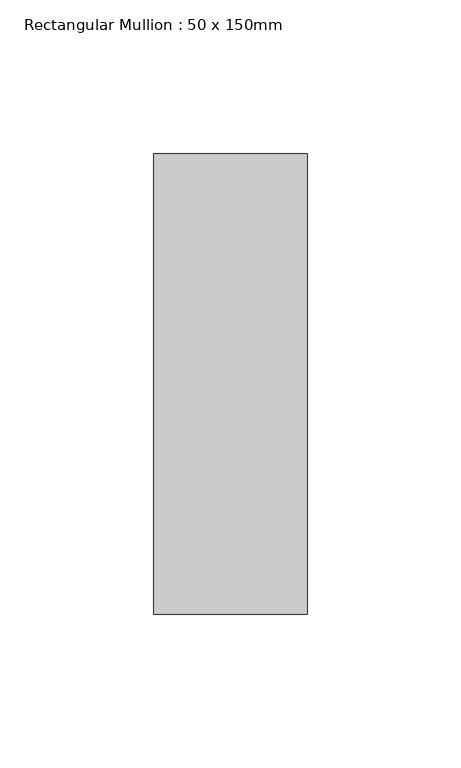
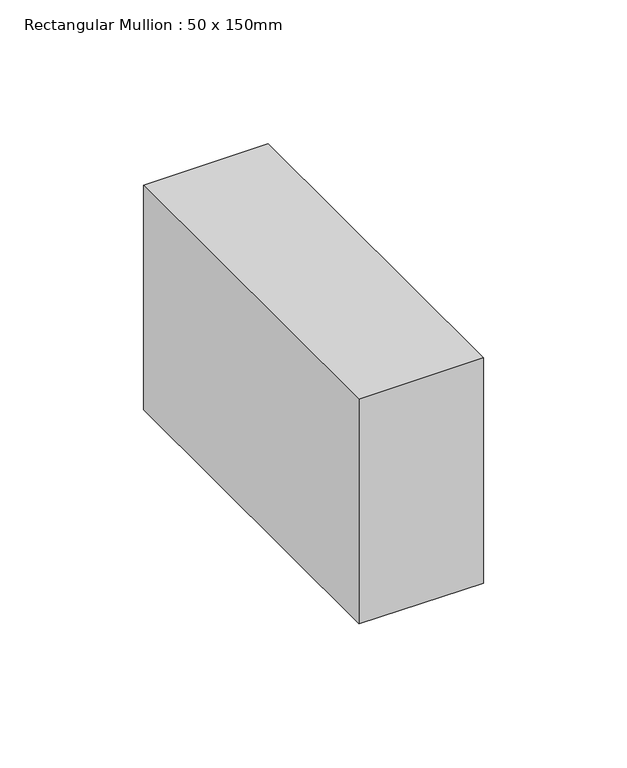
"""IFC4 building model written with IfcOpenShell, lengths in millimetres: member geometry, Rectangular Mullion : 50 x 150mm."""

import ifcopenshell
import ifcopenshell.guid

model = None  # the IFC model being written
_history = None  # IfcOwnerHistory: only IFC2X3 demands one
_inside = {}  # id of a spatial element -> (the spatial element, [elements in it])
_under = {}  # id of a project, library or spatial element -> (it, [spatial elements below it])
_declared = {}  # id of a project -> (the project, [libraries it declares])
_typed = {}  # id of a type object -> (the type object, [elements of that type])
_made_of = {}  # id of a material, layer set ... -> (it, [elements and type objects made of it])


def new_model(schema):
    """Start an empty IFC model of exactly this schema.

    Asked for "IFC4X3", IfcOpenShell would pick the latest addendum, in which some entities
    have other attributes; the version numbers below select the first issue.
    IFC2X3 requires an IfcOwnerHistory on every rooted entity: one is made here for all.
    """
    global model, _history
    if schema == "IFC4X3":
        model = ifcopenshell.file(schema_version=(4, 3, 0, 0))
    else:
        model = ifcopenshell.file(schema=schema)
    _inside.clear()
    _under.clear()
    _declared.clear()
    _typed.clear()
    _made_of.clear()
    _history = None
    if model.schema == "IFC2X3":
        org = make("IfcOrganization", Name="unknown")
        user = make(
            "IfcPersonAndOrganization",
            ThePerson=make("IfcPerson", FamilyName="unknown"),
            TheOrganization=org,
        )
        app = make(
            "IfcApplication",
            ApplicationDeveloper=org,
            Version="unknown",
            ApplicationFullName="unknown",
            ApplicationIdentifier="unknown",
        )
        _history = make(
            "IfcOwnerHistory",
            OwningUser=user,
            OwningApplication=app,
            ChangeAction="ADDED",
            CreationDate=0,
        )
    return model


def make(cls, **values):
    """One entity of the class cls with the attributes given. An attribute that is None is left unset."""
    return model.create_entity(
        cls, **{name: value for name, value in values.items() if value is not None}
    )


def rooted(cls, **values):
    """An entity with a GlobalId (a new one), such as an element, a storey or a relation."""
    return make(cls, GlobalId=ifcopenshell.guid.new(), OwnerHistory=_history, **values)


def si_unit(unit_type, name, prefix=None):
    """IfcSIUnit, for example si_unit("LENGTHUNIT", "METRE", prefix="MILLI")."""
    return make("IfcSIUnit", UnitType=unit_type, Prefix=prefix, Name=name)


def assignment(units):
    """IfcUnitAssignment: the units of a project."""
    return None if units is None else make("IfcUnitAssignment", Units=units)


def point(xyz):
    """IfcCartesianPoint."""
    return None if xyz is None else make("IfcCartesianPoint", Coordinates=xyz)


def direction(xyz):
    """IfcDirection."""
    return None if xyz is None else make("IfcDirection", DirectionRatios=xyz)


def frame(location, z_axis=None, x_axis=None):
    """IfcAxis2Placement3D, a coordinate frame: its origin and axes. An axis left out is left unset."""
    return make(
        "IfcAxis2Placement3D",
        Location=point(location),
        Axis=direction(z_axis),
        RefDirection=direction(x_axis),
    )


def origin():
    """The frame at (0, 0, 0) with its axes left unset."""
    return frame((0.0, 0.0, 0.0))


def place(relative_to, where):
    """IfcLocalPlacement: puts the frame where relative to a parent placement (None: the world)."""
    return make(
        "IfcLocalPlacement", PlacementRelTo=relative_to, RelativePlacement=where
    )


def context(
    kind, dimensions, precision=None, world=None, true_north=None, identifier=None
):
    """IfcGeometricRepresentationContext, for example the 3D "Model" context."""
    return make(
        "IfcGeometricRepresentationContext",
        ContextIdentifier=identifier,
        ContextType=kind,
        CoordinateSpaceDimension=dimensions,
        Precision=precision,
        WorldCoordinateSystem=world,
        TrueNorth=true_north,
    )


def project(units=None, contexts=None):
    """IfcProject with its units and contexts."""
    return rooted(
        "IfcProject",
        Name="project",
        RepresentationContexts=contexts,
        UnitsInContext=assignment(units),
    )


def spatial(cls, under=None, at=None, **own):
    """A site, building, storey or space (cls), placed at a placement, below another one or the project."""
    s = rooted(cls, ObjectPlacement=at, **own)
    if under is not None:
        _under.setdefault(under.id(), (under, []))[1].append(s)
    return s


def polyline(points):
    """IfcPolyline through the points."""
    return make("IfcPolyline", Points=[point(p) for p in points])


def outline(outer, holes=None, kind="AREA"):
    """IfcArbitraryClosedProfileDef: a profile drawn as a closed curve; with holes, ...WithVoids."""
    if holes is None:
        return make("IfcArbitraryClosedProfileDef", ProfileType=kind, OuterCurve=outer)
    return make(
        "IfcArbitraryProfileDefWithVoids",
        ProfileType=kind,
        OuterCurve=outer,
        InnerCurves=holes,
    )


def extrude(swept, where, along, depth):
    """IfcExtrudedAreaSolid: the profile swept, set in the frame where, extruded along a direction by depth."""
    return make(
        "IfcExtrudedAreaSolid",
        SweptArea=swept,
        Position=where,
        ExtrudedDirection=direction(along),
        Depth=depth,
    )


def shape(context_of_items, identifier, shape_type, items):
    """IfcShapeRepresentation: the items that make up one representation, for example the "Body"."""
    return make(
        "IfcShapeRepresentation",
        ContextOfItems=context_of_items,
        RepresentationIdentifier=identifier,
        RepresentationType=shape_type,
        Items=items,
    )


def source(mapping_origin, context_of_items, identifier, shape_type, items):
    """IfcRepresentationMap: a shape defined once, which mapped items show again and again."""
    return make(
        "IfcRepresentationMap",
        MappingOrigin=mapping_origin,
        MappedRepresentation=shape(context_of_items, identifier, shape_type, items),
    )


def transform(
    local_origin,
    x_axis=None,
    y_axis=None,
    z_axis=None,
    scale=None,
    scale2=None,
    scale3=None,
    uniform=True,
):
    """IfcCartesianTransformationOperator3D, or its non-uniform kind. x_axis, y_axis, z_axis: its Axis1, 2, 3."""
    if uniform:
        return make(
            "IfcCartesianTransformationOperator3D",
            Axis1=direction(x_axis),
            Axis2=direction(y_axis),
            LocalOrigin=point(local_origin),
            Scale=scale,
            Axis3=direction(z_axis),
        )
    return make(
        "IfcCartesianTransformationOperator3DnonUniform",
        Axis1=direction(x_axis),
        Axis2=direction(y_axis),
        LocalOrigin=point(local_origin),
        Scale=scale,
        Axis3=direction(z_axis),
        Scale2=scale2,
        Scale3=scale3,
    )


def mapped(mapping_source, mapping_target):
    """IfcMappedItem: shows the shape of a source again, moved by a transform."""
    return make(
        "IfcMappedItem", MappingSource=mapping_source, MappingTarget=mapping_target
    )


def made_of(thing, what):
    """Note that an element or type object is made of a material, layer set ...; save() writes the relation."""
    if what is not None:
        _made_of.setdefault(what.id(), (what, []))[1].append(thing)
    return thing


def element(
    cls,
    number,
    at=None,
    inside=None,
    cuts=None,
    type_object=None,
    material=None,
    context=None,
    identifier="Body",
    shape_type=None,
    held_by="IfcProductDefinitionShape",
    body=None,
    shapes=None,
    **own,
):
    """One element of the class cls, such as IfcWall. Its Tag is "e" and its number.

    at: its placement. inside: the storey or other place that contains it. cuts: it is an
    opening in that element (IfcRelVoidsElement). A single representation is given by context,
    identifier, shape_type and body (its items); several are given by shapes. held_by: the class
    of the entity that holds the representations. save() writes the other relations.
    """
    e = rooted(cls, Tag="e%d" % number, ObjectPlacement=at, **own)
    if body is not None:
        shapes = [shape(context, identifier, shape_type, body)]
    if shapes is not None:
        e.Representation = make(held_by, Representations=shapes)
    if inside is not None:
        _inside.setdefault(inside.id(), (inside, []))[1].append(e)
    if cuts is not None:
        rooted(
            "IfcRelVoidsElement", RelatingBuildingElement=cuts, RelatedOpeningElement=e
        )
    if type_object is not None:
        _typed.setdefault(type_object.id(), (type_object, []))[1].append(e)
    return made_of(e, material)


def aggregate(whole, parts):
    """IfcRelAggregates: a whole, such as a stair, and the parts it consists of."""
    return rooted("IfcRelAggregates", RelatingObject=whole, RelatedObjects=parts)


def save(model, path):
    """Write the relations noted so far, then the file.

    IfcRelAggregates (storeys below a building ...), IfcRelContainedInSpatialStructure (elements
    in a storey), IfcRelDefinesByType, IfcRelAssociatesMaterial and IfcRelDeclares: one each for
    every whole, place, type object, material and project.
    """
    for whole, parts in _under.values():
        aggregate(whole, parts)
    for where, things in _inside.values():
        rooted(
            "IfcRelContainedInSpatialStructure",
            RelatedElements=things,
            RelatingStructure=where,
        )
    for kind, things in _typed.values():
        rooted("IfcRelDefinesByType", RelatedObjects=things, RelatingType=kind)
    for what, things in _made_of.values():
        rooted("IfcRelAssociatesMaterial", RelatedObjects=things, RelatingMaterial=what)
    for by, libraries in _declared.values():
        rooted("IfcRelDeclares", RelatingContext=by, RelatedDefinitions=libraries)
    model.write(path)


def rectangular_mullion_50_x_150mm_830535b7(model_context):
    return source(origin(), model_context, "Body", "SweptSolid", [
        extrude(outline(polyline([(0.0, 0.0), (-0.1223818, -50.0), (-95.5205551, -50.0), (-95.6716297, 0.0), (0.0, 0.0)])), frame((0.0, -75.0, 0.0), z_axis=(0.0, 1.0, 0.0), x_axis=(0.0, 0.0, 1.0)), (0.0, 0.0, 1.0), 150.0),
    ])


if __name__ == "__main__":
    model = new_model("IFC4")
    model_context = context("Model", 3, world=origin())
    ifc_project = project(units=[si_unit("LENGTHUNIT", "METRE", prefix="MILLI")], contexts=[model_context])
    site = spatial("IfcSite", under=ifc_project)
    building = spatial("IfcBuilding", under=site)
    placement = place(None, origin())
    rectangular_mullion_50_x_150mm_shape = rectangular_mullion_50_x_150mm_830535b7(model_context)
    element("IfcMember", 1, ObjectType="Rectangular Mullion : 50 x 150mm", at=placement, inside=building, context=model_context, shape_type="MappedRepresentation", body=[
        mapped(rectangular_mullion_50_x_150mm_shape, transform((0.0, 0.0, 0.0), x_axis=(1.0, 0.0, 0.0), y_axis=(0.0, 1.0, 0.0), z_axis=(0.0, 0.0, 1.0))),
    ])
    save(model, "model.ifc")
